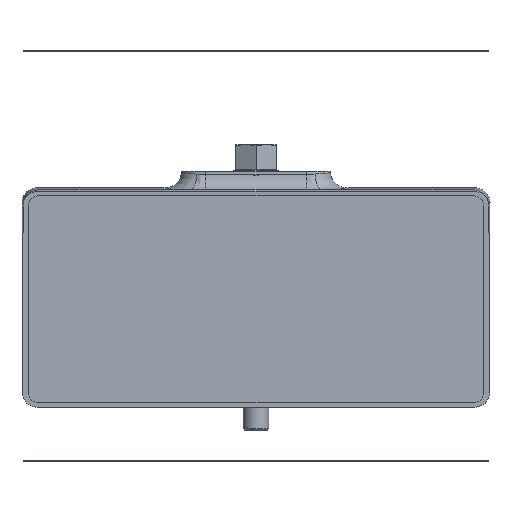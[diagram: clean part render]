
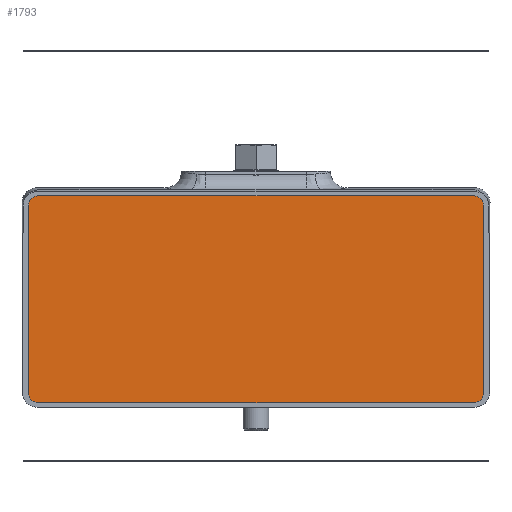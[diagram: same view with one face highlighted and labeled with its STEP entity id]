
A CAD part, front view. The second image highlights one B-rep face of the part: STEP entity #1793.
In plain terms, the highlighted planar face has unit normal (0, -1, 0).
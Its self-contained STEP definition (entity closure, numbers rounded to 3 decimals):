
#469 = AXIS2_PLACEMENT_3D ( 'NONE', #7570, #7571, #7572 ) ;
#1793 = ADVANCED_FACE ( 'NONE', ( #3675 ), #7563, .T. ) ;
#3170 = EDGE_CURVE ( 'NONE', #22866, #22860, #12846, .T. ) ;
#3171 = EDGE_CURVE ( 'NONE', #22860, #22858, #12822, .T. ) ;
#3172 = EDGE_CURVE ( 'NONE', #22858, #22857, #12849, .T. ) ;
#3173 = EDGE_CURVE ( 'NONE', #22857, #22856, #12851, .T. ) ;
#3174 = EDGE_CURVE ( 'NONE', #22856, #22855, #12852, .T. ) ;
#3175 = EDGE_CURVE ( 'NONE', #22855, #22854, #12854, .T. ) ;
#3176 = EDGE_CURVE ( 'NONE', #22854, #22853, #12855, .T. ) ;
#3177 = EDGE_CURVE ( 'NONE', #22853, #22866, #12857, .T. ) ;
#3675 = FACE_OUTER_BOUND ( 'NONE', #17392, .T. ) ;
#4583 = DIRECTION ( 'NONE',  ( 0., 0., 1. ) ) ;
#4587 = DIRECTION ( 'NONE',  ( -1., 0., 0. ) ) ;
#4588 = CARTESIAN_POINT ( 'NONE',  ( 117.5, -15., 112.872 ) ) ;
#4589 = CARTESIAN_POINT ( 'NONE',  ( 122.5, -15., 6.583 ) ) ;
#4590 = CARTESIAN_POINT ( 'NONE',  ( 117.5, -15., 6.583 ) ) ;
#4591 = DIRECTION ( 'NONE',  ( 0., -1., 0. ) ) ;
#4592 = DIRECTION ( 'NONE',  ( 0., 0., -1. ) ) ;
#4593 = CARTESIAN_POINT ( 'NONE',  ( -122.5, -15., 107.872 ) ) ;
#4594 = DIRECTION ( 'NONE',  ( 0., 0., -1. ) ) ;
#4595 = CARTESIAN_POINT ( 'NONE',  ( 117.5, -15., 107.872 ) ) ;
#4596 = DIRECTION ( 'NONE',  ( 0., -1., 0. ) ) ;
#4597 = DIRECTION ( 'NONE',  ( 0., 0., -1. ) ) ;
#4598 = CARTESIAN_POINT ( 'NONE',  ( -117.5, -15., 1.583 ) ) ;
#4599 = DIRECTION ( 'NONE',  ( 1., 0., 0. ) ) ;
#4600 = CARTESIAN_POINT ( 'NONE',  ( -117.5, -15., 107.872 ) ) ;
#4601 = DIRECTION ( 'NONE',  ( 0., -1., 0. ) ) ;
#4602 = DIRECTION ( 'NONE',  ( 0., 0., -1. ) ) ;
#4604 = CARTESIAN_POINT ( 'NONE',  ( -117.5, -15., 6.583 ) ) ;
#4605 = DIRECTION ( 'NONE',  ( 0., -1., 0. ) ) ;
#4606 = DIRECTION ( 'NONE',  ( 0., 0., -1. ) ) ;
#5246 = CARTESIAN_POINT ( 'NONE',  ( -117.5, -15., 1.583 ) ) ;
#5247 = CARTESIAN_POINT ( 'NONE',  ( -122.5, -15., 6.583 ) ) ;
#5248 = CARTESIAN_POINT ( 'NONE',  ( -122.5, -15., 107.872 ) ) ;
#5249 = CARTESIAN_POINT ( 'NONE',  ( -117.5, -15., 112.872 ) ) ;
#5250 = CARTESIAN_POINT ( 'NONE',  ( 117.5, -15., 112.872 ) ) ;
#5251 = CARTESIAN_POINT ( 'NONE',  ( 122.5, -15., 107.872 ) ) ;
#5253 = CARTESIAN_POINT ( 'NONE',  ( 122.5, -15., 6.583 ) ) ;
#5259 = CARTESIAN_POINT ( 'NONE',  ( 117.5, -15., 1.583 ) ) ;
#7563 = PLANE ( 'NONE',  #469 ) ;
#7570 = CARTESIAN_POINT ( 'NONE',  ( 117.5, -15., 6.583 ) ) ;
#7571 = DIRECTION ( 'NONE',  ( 0., -1., 0. ) ) ;
#7572 = DIRECTION ( 'NONE',  ( 0., 0., -1. ) ) ;
#11331 = AXIS2_PLACEMENT_3D ( 'NONE', #4590, #4591, #4592 ) ;
#11332 = AXIS2_PLACEMENT_3D ( 'NONE', #4595, #4596, #4597 ) ;
#11333 = AXIS2_PLACEMENT_3D ( 'NONE', #4600, #4601, #4602 ) ;
#11334 = AXIS2_PLACEMENT_3D ( 'NONE', #4604, #4605, #4606 ) ;
#12822 = LINE ( 'NONE', #4589, #12850 ) ;
#12846 = CIRCLE ( 'NONE', #11331, 5. ) ;
#12849 = CIRCLE ( 'NONE', #11332, 5. ) ;
#12850 = VECTOR ( 'NONE', #4583, 1000. ) ;
#12851 = LINE ( 'NONE', #4588, #12853 ) ;
#12852 = CIRCLE ( 'NONE', #11333, 5. ) ;
#12853 = VECTOR ( 'NONE', #4587, 1000. ) ;
#12854 = LINE ( 'NONE', #4593, #12856 ) ;
#12855 = CIRCLE ( 'NONE', #11334, 5. ) ;
#12856 = VECTOR ( 'NONE', #4594, 1000. ) ;
#12857 = LINE ( 'NONE', #4598, #12859 ) ;
#12859 = VECTOR ( 'NONE', #4599, 1000. ) ;
#17392 = EDGE_LOOP ( 'NONE', ( #18500, #18501, #18502, #18503, #18504, #18505, #18506, #18507 ) ) ;
#18500 = ORIENTED_EDGE ( 'NONE', *, *, #3170, .T. ) ;
#18501 = ORIENTED_EDGE ( 'NONE', *, *, #3171, .T. ) ;
#18502 = ORIENTED_EDGE ( 'NONE', *, *, #3172, .T. ) ;
#18503 = ORIENTED_EDGE ( 'NONE', *, *, #3173, .T. ) ;
#18504 = ORIENTED_EDGE ( 'NONE', *, *, #3174, .T. ) ;
#18505 = ORIENTED_EDGE ( 'NONE', *, *, #3175, .T. ) ;
#18506 = ORIENTED_EDGE ( 'NONE', *, *, #3176, .T. ) ;
#18507 = ORIENTED_EDGE ( 'NONE', *, *, #3177, .T. ) ;
#22853 = VERTEX_POINT ( 'NONE', #5246 ) ;
#22854 = VERTEX_POINT ( 'NONE', #5247 ) ;
#22855 = VERTEX_POINT ( 'NONE', #5248 ) ;
#22856 = VERTEX_POINT ( 'NONE', #5249 ) ;
#22857 = VERTEX_POINT ( 'NONE', #5250 ) ;
#22858 = VERTEX_POINT ( 'NONE', #5251 ) ;
#22860 = VERTEX_POINT ( 'NONE', #5253 ) ;
#22866 = VERTEX_POINT ( 'NONE', #5259 ) ;
